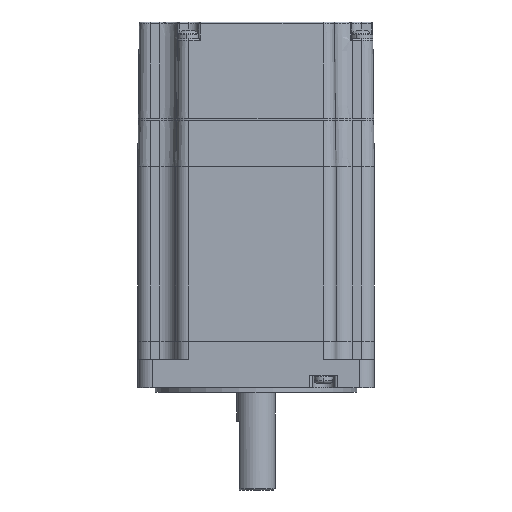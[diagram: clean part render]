
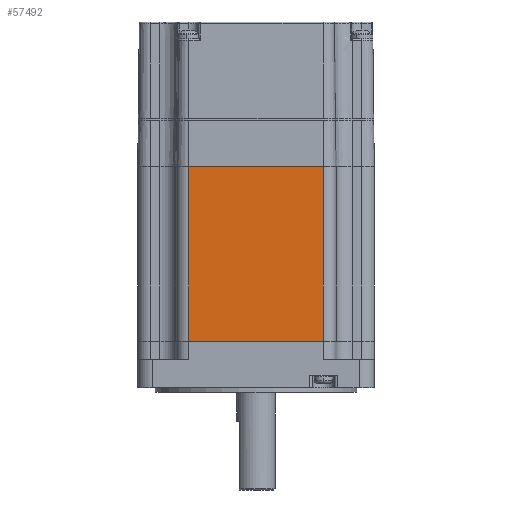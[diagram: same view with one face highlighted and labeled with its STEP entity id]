
A CAD part, front view. The second image highlights one B-rep face of the part: STEP entity #57492.
In plain terms, the highlighted planar face has unit normal (0, -1, 0).
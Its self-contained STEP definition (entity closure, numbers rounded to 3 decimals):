
#8877 = CARTESIAN_POINT ( 'NONE',  ( -73.696, -16.368, -40.75 ) ) ;
#9431 = VECTOR ( 'NONE', #58508, 1000. ) ;
#10598 = LINE ( 'NONE', #42397, #9431 ) ;
#11146 = ORIENTED_EDGE ( 'NONE', *, *, #47726, .T. ) ;
#12638 = CARTESIAN_POINT ( 'NONE',  ( -73.696, -16.368, -40.75 ) ) ;
#13863 = VECTOR ( 'NONE', #71348, 1000. ) ;
#23947 = DIRECTION ( 'NONE',  ( 1., 0., 0. ) ) ;
#24035 = VECTOR ( 'NONE', #67896, 1000. ) ;
#25624 = EDGE_CURVE ( 'NONE', #65304, #102809, #97057, .T. ) ;
#34703 = ORIENTED_EDGE ( 'NONE', *, *, #35371, .F. ) ;
#35371 = EDGE_CURVE ( 'NONE', #90147, #101151, #10598, .T. ) ;
#42397 = CARTESIAN_POINT ( 'NONE',  ( -73.696, -16.368, 22.5 ) ) ;
#43390 = CARTESIAN_POINT ( 'NONE',  ( -73.696, -16.368, -40.75 ) ) ;
#47726 = EDGE_CURVE ( 'NONE', #102809, #101151, #54617, .T. ) ;
#48066 = AXIS2_PLACEMENT_3D ( 'NONE', #60271, #93805, #50575 ) ;
#50575 = DIRECTION ( 'NONE',  ( 1., 0., 0. ) ) ;
#54617 = LINE ( 'NONE', #103210, #13863 ) ;
#57492 = ADVANCED_FACE ( 'NONE', ( #82460 ), #84950, .T. ) ;
#58508 = DIRECTION ( 'NONE',  ( 1., 0., 0. ) ) ;
#60271 = CARTESIAN_POINT ( 'NONE',  ( -73.696, -16.368, -40.75 ) ) ;
#63185 = EDGE_CURVE ( 'NONE', #65304, #90147, #90467, .T. ) ;
#63976 = CARTESIAN_POINT ( 'NONE',  ( -24.796, -16.368, 22.5 ) ) ;
#64554 = ORIENTED_EDGE ( 'NONE', *, *, #25624, .T. ) ;
#65304 = VERTEX_POINT ( 'NONE', #43390 ) ;
#67896 = DIRECTION ( 'NONE',  ( 0., 0., 1. ) ) ;
#71348 = DIRECTION ( 'NONE',  ( 0., 0., 1. ) ) ;
#80449 = EDGE_LOOP ( 'NONE', ( #34703, #89878, #64554, #11146 ) ) ;
#82460 = FACE_OUTER_BOUND ( 'NONE', #80449, .T. ) ;
#84950 = PLANE ( 'NONE',  #48066 ) ;
#89878 = ORIENTED_EDGE ( 'NONE', *, *, #63185, .F. ) ;
#90147 = VERTEX_POINT ( 'NONE', #97817 ) ;
#90467 = LINE ( 'NONE', #12638, #24035 ) ;
#93805 = DIRECTION ( 'NONE',  ( 0., -1., 0. ) ) ;
#97057 = LINE ( 'NONE', #8877, #102280 ) ;
#97159 = CARTESIAN_POINT ( 'NONE',  ( -24.796, -16.368, -40.75 ) ) ;
#97817 = CARTESIAN_POINT ( 'NONE',  ( -73.696, -16.368, 22.5 ) ) ;
#101151 = VERTEX_POINT ( 'NONE', #63976 ) ;
#102280 = VECTOR ( 'NONE', #23947, 1000. ) ;
#102809 = VERTEX_POINT ( 'NONE', #97159 ) ;
#103210 = CARTESIAN_POINT ( 'NONE',  ( -24.796, -16.368, -40.75 ) ) ;
